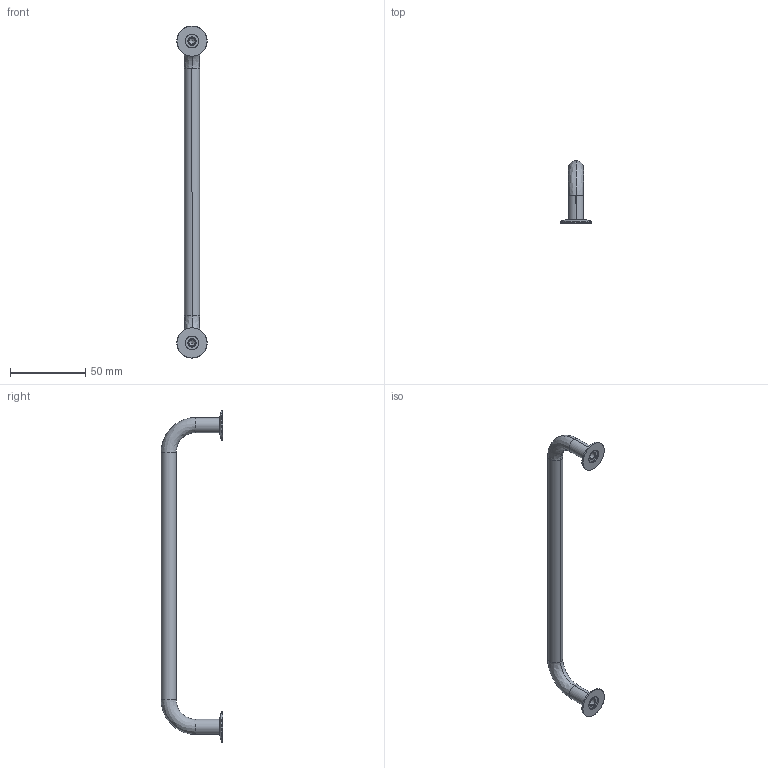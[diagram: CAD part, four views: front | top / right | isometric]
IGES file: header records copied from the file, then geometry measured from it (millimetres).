
Start section: SolidWorks IGES file using analytic representation for surfaces
Global section: file name: C:\Documents and Settings\IANO\Desktop\Temp File\Process pending\PCN pending\78700_v2\78700_v2_20170116_IGES\78700.W0520.igs; native system: SolidWorks 2009; preprocessor: SolidWorks 2009; author: IANO; date: 170310.095925; units: millimetre
Bounding box: 20 x 41 x 220 mm (x, y, z)
Surface area: 9719 mm2 (no closed solid volume)
Topology: 0 solids, 0 shells, 52 faces, 808 edges, 804 vertices
Faces by surface type: revolution 38, bspline 14
